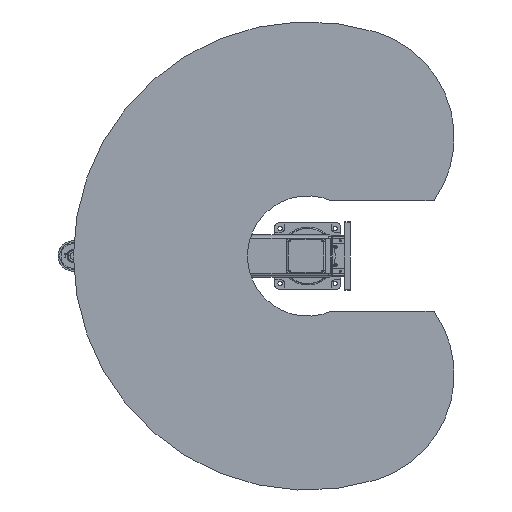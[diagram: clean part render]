
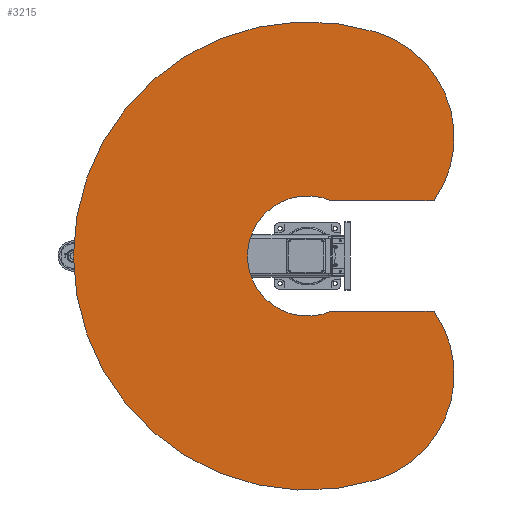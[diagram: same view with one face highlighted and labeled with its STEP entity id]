
A CAD part, front view. The second image highlights one B-rep face of the part: STEP entity #3215.
In plain terms, the highlighted planar face has unit normal (0, -1, 0).
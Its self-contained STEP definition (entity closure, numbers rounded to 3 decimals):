
#3215 = ADVANCED_FACE( '', ( #8753 ), #8754, .F. );
#8753 = FACE_OUTER_BOUND( '', #17456, .T. );
#8754 = PLANE( '', #17457 );
#17456 = EDGE_LOOP( '', ( #28696, #28697, #28698, #28699, #28700, #28701 ) );
#17457 = AXIS2_PLACEMENT_3D( '', #28702, #28703, #28704 );
#28696 = ORIENTED_EDGE( '', *, *, #48959, .F. );
#28697 = ORIENTED_EDGE( '', *, *, #48960, .F. );
#28698 = ORIENTED_EDGE( '', *, *, #48946, .T. );
#28699 = ORIENTED_EDGE( '', *, *, #48961, .F. );
#28700 = ORIENTED_EDGE( '', *, *, #48612, .F. );
#28701 = ORIENTED_EDGE( '', *, *, #48962, .F. );
#28702 = CARTESIAN_POINT( '', ( 430.337, 0., 131.567 ) );
#28703 = DIRECTION( '', ( 0., 1., 0. ) );
#28704 = DIRECTION( '', ( 0., 0., 1. ) );
#48612 = EDGE_CURVE( '', #57487, #57488, #57489, .T. );
#48946 = EDGE_CURVE( '', #58059, #58060, #58061, .T. );
#48959 = EDGE_CURVE( '', #58082, #58083, #58084, .T. );
#48960 = EDGE_CURVE( '', #58059, #58082, #58085, .T. );
#48961 = EDGE_CURVE( '', #57488, #58060, #58086, .T. );
#48962 = EDGE_CURVE( '', #58083, #57487, #58087, .T. );
#57487 = VERTEX_POINT( '', #70506 );
#57488 = VERTEX_POINT( '', #70507 );
#57489 = CIRCLE( '', #70508, 400. );
#58059 = VERTEX_POINT( '', #71333 );
#58060 = VERTEX_POINT( '', #71334 );
#58061 = CIRCLE( '', #71335, 218.3 );
#58082 = VERTEX_POINT( '', #71360 );
#58083 = VERTEX_POINT( '', #71361 );
#58084 = CIRCLE( '', #71362, 400. );
#58085 = LINE( '', #71363, #71364 );
#58086 = LINE( '', #71365, #71366 );
#58087 = CIRCLE( '', #71367, 850. );
#70506 = CARTESIAN_POINT( '', ( -812.859, 0., 248.516 ) );
#70507 = CARTESIAN_POINT( '', ( -200., 0., 458.591 ) );
#70508 = AXIS2_PLACEMENT_3D( '', #88774, #88775, #88776 );
#71333 = CARTESIAN_POINT( '', ( 200., 0., 87.492 ) );
#71334 = CARTESIAN_POINT( '', ( -200., 0., 87.492 ) );
#71335 = AXIS2_PLACEMENT_3D( '', #89222, #89223, #89224 );
#71360 = CARTESIAN_POINT( '', ( 200., 0., 458.591 ) );
#71361 = CARTESIAN_POINT( '', ( 812.859, 0., 248.516 ) );
#71362 = AXIS2_PLACEMENT_3D( '', #89244, #89245, #89246 );
#71363 = CARTESIAN_POINT( '', ( 200., 0., 87.492 ) );
#71364 = VECTOR( '', #89247, 1000. );
#71365 = CARTESIAN_POINT( '', ( -200., 0., 458.591 ) );
#71366 = VECTOR( '', #89248, 1000. );
#71367 = AXIS2_PLACEMENT_3D( '', #89249, #89250, #89251 );
#88774 = CARTESIAN_POINT( '', ( -430.337, 0., 131.567 ) );
#88775 = DIRECTION( '', ( 0., 1., 0. ) );
#88776 = DIRECTION( '', ( 1., 0., 0. ) );
#89222 = CARTESIAN_POINT( '', ( 0., 0., 0. ) );
#89223 = DIRECTION( '', ( 0., 1., 0. ) );
#89224 = DIRECTION( '', ( 1., 0., 0. ) );
#89244 = CARTESIAN_POINT( '', ( 430.337, 0., 131.567 ) );
#89245 = DIRECTION( '', ( 0., 1., 0. ) );
#89246 = DIRECTION( '', ( 1., 0., 0. ) );
#89247 = DIRECTION( '', ( 0., 0., 1. ) );
#89248 = DIRECTION( '', ( 0., 0., -1. ) );
#89249 = CARTESIAN_POINT( '', ( 0., 0., 0. ) );
#89250 = DIRECTION( '', ( 0., 1., 0. ) );
#89251 = DIRECTION( '', ( 1., 0., 0. ) );
